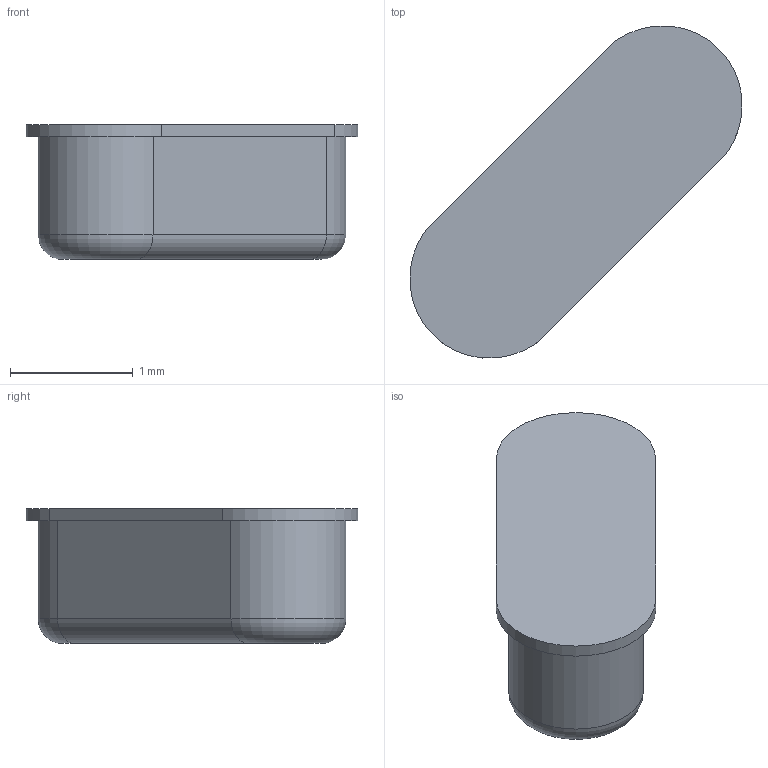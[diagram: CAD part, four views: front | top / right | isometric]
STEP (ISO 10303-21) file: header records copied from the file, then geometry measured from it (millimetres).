
FILE_DESCRIPTION(/* description */ ('STEP AP242 Edition 2','CAx-IF Rec.Pracs.---Representation and Presentation of Product Manufacturing Information (PMI)---4.0---2014-10-13','CAx-IF Rec.Pracs.---3D Tessellated Geometry---0.4---2014-09-14','2;1','CAx-IF Rec.Pracs.---User Defined Attributes---1.5---2016-08-15'),/* implementation_level */ '2;1');
FILE_NAME(/* name */ 'Drone Layout - Surface 79',/* time_stamp */ '2026-10-04T22:23:00Z',/* author */ (''),/* organization */ (''),/* preprocessor_version */ 'ST-DEVELOPER v20',/* originating_system */ 'ONSHAPE BY PTC INC, 1.221',/* authorisation */ ' ');
FILE_SCHEMA (('AP242_MANAGED_MODEL_BASED_3D_ENGINEERING_MIM_LF { 1 0 10303 442 3 1 4 }'));
Length unit declared in the file: metre
Products named in the file (1): Crystal:1__Crystal
Bounding box: 2.71 x 2.71 x 1.1 mm (x, y, z)
Volume: 3.5 mm3; surface area: 15.5 mm2
Topology: 1 solids, 1 shells, 15 faces, 32 edges, 20 vertices
Faces by surface type: plane 7, cylinder 6, torus 2
Entity records: 421 total; most frequent: DIRECTION 78, CARTESIAN_POINT 68, ORIENTED_EDGE 64, EDGE_CURVE 32, AXIS2_PLACEMENT_3D 30, VERTEX_POINT 20, LINE 18, VECTOR 18
